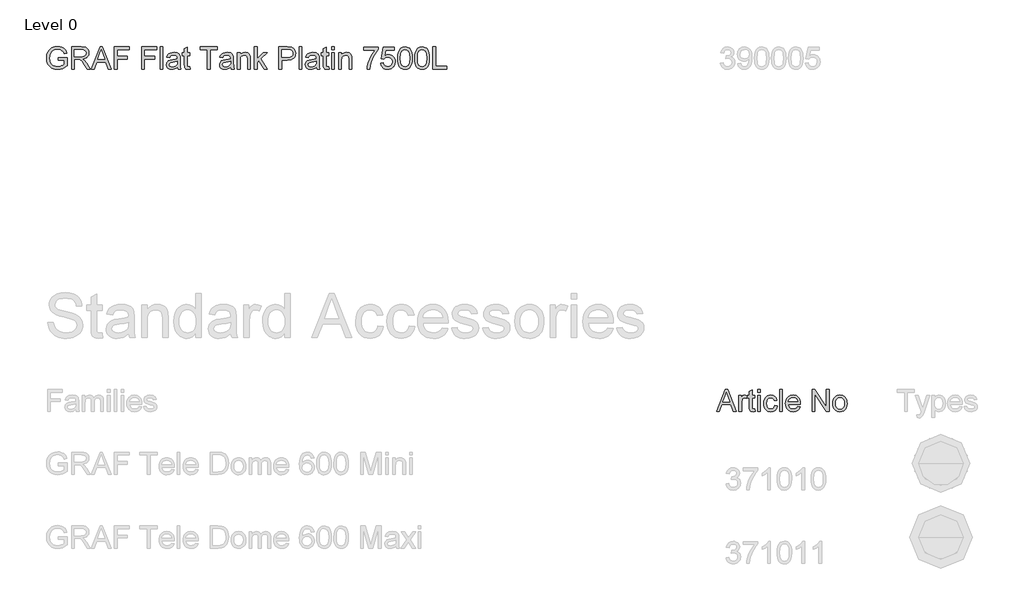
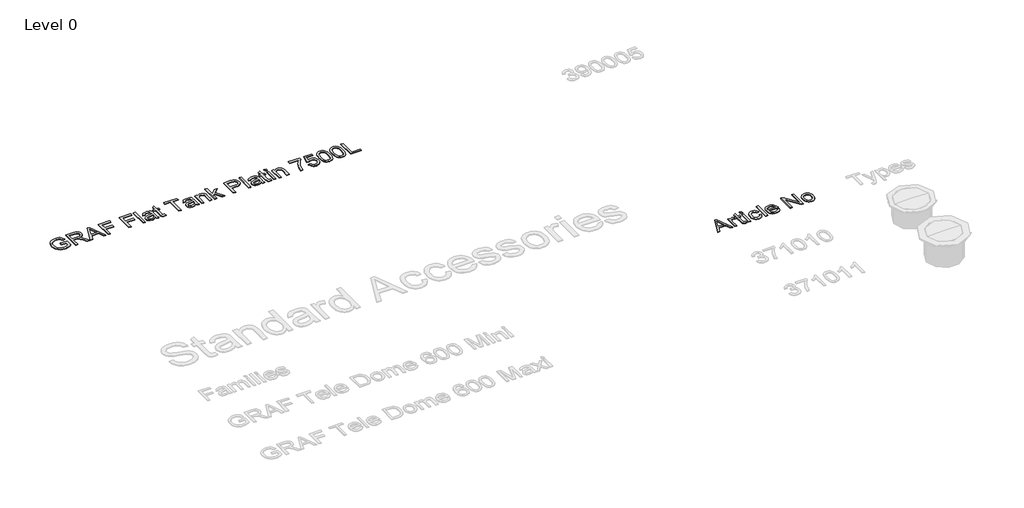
# One storey, part 9 of 14: 2 proxies.
"""IFC4 building model written with IfcOpenShell, lengths in millimetres."""

from ifc_helpers import new_model, si_unit, origin, origin_with_axes, place, context, project, spatial, polyline, outline, extrude, element, save

model = new_model("IFC4")

# Units and contexts
model_context = context("Model", 3, world=origin())
ifc_project = project(units=[si_unit("LENGTHUNIT", "METRE", prefix="MILLI")], contexts=[model_context])

# Site, building, storey
site = spatial("IfcSite", under=ifc_project)
building = spatial("IfcBuilding", under=site)
storey = spatial("IfcBuildingStorey", under=building, Name="Level 0", Elevation=0.0)

# Proxies
placement = place(None, origin())
element("IfcBuildingElementProxy", 1, Name="300mm Arial", ObjectType="300mm Arial", at=placement, inside=storey, context=model_context, shape_type="SweptSolid", body=[
    extrude(outline(polyline([(-15240.9940387, -2583.2545597), (-15240.9940387, -2545.5834434), (-15118.5629107, -2545.5834434), (-15118.5629107, -2658.2289103), (-15148.3153671, -2678.9222726), (-15179.0059225, -2693.7663111), (-15210.5610007, -2702.7058436), (-15242.9070251, -2705.6856877), (-15285.1674693, -2700.949207), (-15323.3628175, -2686.739765), (-15355.0926395, -2663.5540022), (-15377.9565055, -2631.8885595), (-15391.7796715, -2593.9047435), (-15396.3873935, -2551.7638609), (-15391.7980656, -2509.3194757), (-15378.0300819, -2469.8365406), (-15355.6536596, -2436.717964), (-15325.2390156, -2413.3666543), (-15288.1932987, -2399.5158972), (-15245.9236575, -2394.8989782), (-15214.8928112, -2397.5753197), (-15186.9889618, -2405.6043443), (-15163.4904994, -2418.4066377), (-15145.6758138, -2435.4027859), (-15132.4964413, -2457.4113262), (-15122.9039183, -2485.2507962), (-15157.6319786, -2495.0364573), (-15165.3850917, -2475.1800266), (-15174.8120678, -2460.1980323), (-15187.2832674, -2448.9040551), (-15204.169051, -2440.1116754), (-15224.3013932, -2434.4554897), (-15246.5122687, -2432.5700945), (-15272.5123287, -2434.6026425), (-15294.7415982, -2440.7002866), (-15313.1173039, -2450.0996716), (-15327.5566722, -2462.0374423), (-15346.9440533, -2491.0633317), (-15355.7732212, -2519.50061), (-15358.7162772, -2550.2187566), (-15355.175413, -2586.2436009), (-15344.5528204, -2615.8856927), (-15327.1703961, -2638.9334997), (-15303.3500369, -2655.1754898), (-15275.4737787, -2664.804801), (-15245.9236575, -2668.0145714), (-15219.831627, -2665.5957473), (-15194.3833899, -2658.3392749), (-15172.2828791, -2648.3420817), (-15156.234027, -2637.701095), (-15156.234027, -2583.2545597), (-15240.9940387, -2583.2545597)])), origin_with_axes(), (0.0, 0.0, 1.0), 10.0),
    extrude(outline(polyline([(-15057.3473467, -2700.9767982), (-15057.3473467, -2399.6078677), (-14927.4850024, -2399.6078677), (-14892.5821982, -2401.6404158), (-14867.1891434, -2407.7380598), (-14848.6294968, -2418.9952489), (-14834.2269167, -2436.5064318), (-14824.9838815, -2458.2206666), (-14821.9028698, -2482.087011), (-14827.0072325, -2511.7750881), (-14842.3203206, -2536.3863935), (-14853.9200997, -2546.4157764), (-14868.3019865, -2554.4310054), (-14905.4120827, -2564.4190016), (-14884.0013506, -2580.532233), (-14853.467145, -2619.3069952), (-14803.2144645, -2700.9767982), (-14846.9924219, -2700.9767982), (-14886.2086426, -2638.5104354), (-14914.5355562, -2597.1604991), (-14934.4379722, -2577.6259652), (-14952.3538253, -2570.4522663), (-14974.2060158, -2569.1278911), (-15019.6762304, -2569.1278911), (-15019.6762304, -2700.9767982), (-15057.3473467, -2700.9767982)]), holes=[polyline([(-15019.6762304, -2531.4567748), (-14935.3576771, -2531.4567748), (-14911.1418448, -2530.1232026), (-14892.3522719, -2526.1224859), (-14878.2072092, -2519.1879103), (-14867.9249074, -2509.0527613), (-14861.6617165, -2496.7930938), (-14859.5739861, -2483.4849626), (-14863.5563087, -2465.109257), (-14875.5032765, -2450.3020067), (-14896.058683, -2440.5347397), (-14925.8663217, -2437.278984), (-15019.6762304, -2437.278984), (-15019.6762304, -2531.4567748)])]), origin_with_axes(), (0.0, 0.0, 1.0), 10.0),
    extrude(outline(polyline([(-14791.0743586, -2700.9767982), (-14670.7769462, -2399.6078677), (-14638.6976362, -2399.6078677), (-14518.4002238, -2700.9767982), (-14558.2050557, -2700.9767982), (-14592.7123868, -2606.7990074), (-14716.835772, -2606.7990074), (-14751.2695268, -2700.9767982), (-14791.0743586, -2700.9767982)]), holes=[polyline([(-14703.003409, -2569.1278911), (-14606.4711735, -2569.1278911), (-14633.6208647, -2495.0364573), (-14654.7372912, -2437.278984), (-14673.499273, -2488.5617342), (-14703.003409, -2569.1278911)])]), origin_with_axes(), (0.0, 0.0, 1.0), 10.0),
    extrude(outline(polyline([(-14478.1539335, -2700.9767982), (-14478.1539335, -2399.6078677), (-14275.6716834, -2399.6078677), (-14275.6716834, -2437.278984), (-14440.4828172, -2437.278984), (-14440.4828172, -2526.7478853), (-14299.2161311, -2526.7478853), (-14299.2161311, -2564.4190016), (-14440.4828172, -2564.4190016), (-14440.4828172, -2700.9767982), (-14478.1539335, -2700.9767982)])), origin_with_axes(), (0.0, 0.0, 1.0), 10.0),
    extrude(outline(polyline([(-14106.15166, -2700.9767982), (-14106.15166, -2399.6078677), (-13903.6694099, -2399.6078677), (-13903.6694099, -2437.278984), (-14068.4805437, -2437.278984), (-14068.4805437, -2526.7478853), (-13927.2138576, -2526.7478853), (-13927.2138576, -2564.4190016), (-14068.4805437, -2564.4190016), (-14068.4805437, -2700.9767982), (-14106.15166, -2700.9767982)])), origin_with_axes(), (0.0, 0.0, 1.0), 10.0),
    extrude(outline(polyline([(-13856.5805145, -2700.9767982), (-13856.5805145, -2399.6078677), (-13818.9093982, -2399.6078677), (-13818.9093982, -2700.9767982), (-13856.5805145, -2700.9767982)])), origin_with_axes(), (0.0, 0.0, 1.0), 10.0),
    extrude(outline(polyline([(-13621.1360376, -2672.7234609), (-13639.1346642, -2688.1561106), (-13657.6667197, -2698.2544714), (-13677.1552684, -2703.8278836), (-13698.0233746, -2705.6856877), (-13729.5048763, -2701.2159215), (-13752.7274272, -2687.8066228), (-13767.0472339, -2667.4443543), (-13771.8205028, -2642.1156789), (-13770.017881, -2626.4990883), (-13764.6100157, -2612.3172373), (-13756.2682915, -2600.1771315), (-13745.6640929, -2590.685776), (-13719.2869539, -2578.324941), (-13686.6926091, -2572.6595583), (-13648.1753642, -2566.6998699), (-13621.3567668, -2559.710112), (-13621.1360376, -2551.3224025), (-13623.7296056, -2534.5101954), (-13631.5103098, -2523.5105237), (-13648.9111282, -2515.3435434), (-13673.1545517, -2512.6212166), (-13695.5953534, -2514.4330355), (-13711.2671264, -2519.868492), (-13721.9540984, -2529.9208675), (-13729.440497, -2545.5834434), (-13767.1116133, -2540.8745539), (-13760.5725108, -2520.2731621), (-13750.8144409, -2504.0863544), (-13736.9268956, -2491.7071252), (-13717.9993669, -2482.5284694), (-13694.8503924, -2476.8446926), (-13668.2985094, -2474.9501003), (-13642.8318782, -2476.6239634), (-13622.6443538, -2481.6455527), (-13607.4232362, -2489.1963306), (-13596.8558259, -2498.4577598), (-13589.8476739, -2509.9080869), (-13585.3043312, -2524.0255585), (-13583.4649213, -2556.9877853), (-13583.4649213, -2603.8559515), (-13581.5519349, -2669.3021584), (-13574.0471422, -2700.9767982), (-13611.7182585, -2700.9767982), (-13621.1360376, -2672.7234609)]), holes=[polyline([(-13621.1360376, -2597.3812283), (-13681.9101432, -2608.932723), (-13714.320547, -2615.0395641), (-13728.9990386, -2624.972378), (-13734.1493865, -2639.4669286), (-13731.3442863, -2650.6689353), (-13722.9289856, -2659.8475911), (-13709.0874256, -2665.9728263), (-13690.0035471, -2668.0145714), (-13669.7700373, -2665.7612942), (-13651.8909724, -2659.0014625), (-13637.3964218, -2649.0410575), (-13627.3164551, -2637.1860602), (-13622.8466889, -2624.972378), (-13621.3567668, -2608.0498062), (-13621.1360376, -2597.3812283)])]), origin_with_axes(), (0.0, 0.0, 1.0), 10.0),
    extrude(outline(polyline([(-13451.6160142, -2669.5596758), (-13446.9071247, -2702.0804442), (-13475.0868855, -2705.6856877), (-13493.1682856, -2704.1221892), (-13506.6511607, -2699.4316938), (-13516.1793043, -2692.2028126), (-13522.3965101, -2683.0241568), (-13525.8178126, -2667.2604133), (-13526.9582468, -2640.276269), (-13526.9582468, -2517.3301062), (-13555.211584, -2517.3301062), (-13555.211584, -2479.6589899), (-13526.9582468, -2479.6589899), (-13526.9582468, -2425.8746422), (-13489.2871305, -2403.7281461), (-13489.2871305, -2479.6589899), (-13451.6160142, -2479.6589899), (-13451.6160142, -2517.3301062), (-13489.2871305, -2517.3301062), (-13489.2871305, -2639.172623), (-13487.3005677, -2658.5967923), (-13480.8626328, -2665.4761856), (-13468.0235512, -2668.0145714), (-13451.6160142, -2669.5596758)])), origin_with_axes(), (0.0, 0.0, 1.0), 10.0),
    extrude(outline(polyline([(-13216.1715373, -2700.9767982), (-13216.1715373, -2437.278984), (-13315.0582176, -2437.278984), (-13315.0582176, -2399.6078677), (-13079.6137407, -2399.6078677), (-13079.6137407, -2437.278984), (-13178.500421, -2437.278984), (-13178.500421, -2700.9767982), (-13216.1715373, -2700.9767982)])), origin_with_axes(), (0.0, 0.0, 1.0), 10.0),
    extrude(outline(polyline([(-12900.6759382, -2672.7234609), (-12918.6745648, -2688.1561106), (-12937.2066203, -2698.2544714), (-12956.695169, -2703.8278836), (-12977.5632752, -2705.6856877), (-13009.0447769, -2701.2159215), (-13032.2673279, -2687.8066228), (-13046.5871346, -2667.4443543), (-13051.3604034, -2642.1156789), (-13049.5577817, -2626.4990883), (-13044.1499163, -2612.3172373), (-13035.8081921, -2600.1771315), (-13025.2039936, -2590.685776), (-12998.8268545, -2578.324941), (-12966.2325098, -2572.6595583), (-12927.7152649, -2566.6998699), (-12900.8966674, -2559.710112), (-12900.6759382, -2551.3224025), (-12903.2695063, -2534.5101954), (-12911.0502105, -2523.5105237), (-12928.4510289, -2515.3435434), (-12952.6944523, -2512.6212166), (-12975.135254, -2514.4330355), (-12990.807027, -2519.868492), (-13001.493999, -2529.9208675), (-13008.9803976, -2545.5834434), (-13046.6515139, -2540.8745539), (-13040.1124114, -2520.2731621), (-13030.3543415, -2504.0863544), (-13016.4667962, -2491.7071252), (-12997.5392675, -2482.5284694), (-12974.390293, -2476.8446926), (-12947.83841, -2474.9501003), (-12922.3717789, -2476.6239634), (-12902.1842544, -2481.6455527), (-12886.9631368, -2489.1963306), (-12876.3957265, -2498.4577598), (-12869.3875745, -2509.9080869), (-12864.8442319, -2524.0255585), (-12863.0048219, -2556.9877853), (-12863.0048219, -2603.8559515), (-12861.0918355, -2669.3021584), (-12853.5870428, -2700.9767982), (-12891.2581591, -2700.9767982), (-12900.6759382, -2672.7234609)]), holes=[polyline([(-12900.6759382, -2597.3812283), (-12961.4500438, -2608.932723), (-12993.8604476, -2615.0395641), (-13008.5389392, -2624.972378), (-13013.6892871, -2639.4669286), (-13010.8841869, -2650.6689353), (-13002.4688863, -2659.8475911), (-12988.6273262, -2665.9728263), (-12969.5434477, -2668.0145714), (-12949.309938, -2665.7612942), (-12931.430873, -2659.0014625), (-12916.9363224, -2649.0410575), (-12906.8563557, -2637.1860602), (-12902.3865895, -2624.972378), (-12900.8966674, -2608.0498062), (-12900.6759382, -2597.3812283)])]), origin_with_axes(), (0.0, 0.0, 1.0), 10.0),
    extrude(outline(polyline([(-12811.207037, -2700.9767982), (-12811.207037, -2479.6589899), (-12773.5359207, -2479.6589899), (-12773.5359207, -2510.5610775), (-12760.4485187, -2494.981275), (-12744.7307605, -2483.8528446), (-12726.382646, -2477.1757864), (-12705.4041752, -2474.9501003), (-12686.8353315, -2476.7435251), (-12669.8299862, -2482.1237992), (-12655.6481353, -2490.4195382), (-12645.5497746, -2500.9593574), (-12634.2557973, -2528.6608716), (-12632.2692345, -2565.0811892), (-12632.2692345, -2700.9767982), (-12669.9403508, -2700.9767982), (-12669.9403508, -2570.1579607), (-12674.2813584, -2536.8278519), (-12680.287032, -2526.9042351), (-12689.6220376, -2519.2063044), (-12701.5873995, -2514.2674886), (-12715.4841418, -2512.6212166), (-12737.5478645, -2516.3184307), (-12756.3558315, -2527.4100729), (-12763.8721205, -2536.4645685), (-12769.2408984, -2548.8391991), (-12773.5359207, -2583.5488653), (-12773.5359207, -2700.9767982), (-12811.207037, -2700.9767982)])), origin_with_axes(), (0.0, 0.0, 1.0), 10.0),
    extrude(outline(polyline([(-12580.4714496, -2700.9767982), (-12580.4714496, -2399.6078677), (-12542.8003333, -2399.6078677), (-12542.8003333, -2561.549522), (-12458.3346272, -2479.6589899), (-12406.2425367, -2479.6589899), (-12491.7383124, -2562.5795916), (-12401.5336472, -2700.9767982), (-12445.5323338, -2700.9767982), (-12518.7408508, -2588.7727896), (-12542.8003333, -2612.0965081), (-12542.8003333, -2700.9767982), (-12580.4714496, -2700.9767982)])), origin_with_axes(), (0.0, 0.0, 1.0), 10.0),
    extrude(outline(polyline([(-12246.1402924, -2700.9767982), (-12246.1402924, -2399.6078677), (-12134.4513187, -2399.6078677), (-12089.4225625, -2402.4773473), (-12069.3454026, -2407.8392274), (-12052.8183039, -2416.5672277), (-12039.5101728, -2429.0568214), (-12029.0899152, -2445.7034817), (-12022.3576747, -2465.3391832), (-12020.1135946, -2486.7959006), (-12021.6288085, -2505.2957664), (-12026.1744504, -2522.3149072), (-12033.7505203, -2537.853323), (-12044.357018, -2551.9110137), (-12058.9182473, -2563.5636759), (-12078.3585115, -2571.8870061), (-12102.6778106, -2576.8810042), (-12131.8761447, -2578.5456702), (-12208.4691761, -2578.5456702), (-12208.4691761, -2700.9767982), (-12246.1402924, -2700.9767982)]), holes=[polyline([(-12208.4691761, -2540.8745539), (-12129.6688527, -2540.8745539), (-12096.2651676, -2537.4164631), (-12074.1922479, -2527.0421909), (-12061.8865951, -2510.3955306), (-12057.7847109, -2488.1202758), (-12060.203535, -2471.197704), (-12067.4600073, -2456.9238826), (-12078.652817, -2446.1817283), (-12092.8806532, -2439.854158), (-12130.5517695, -2437.278984), (-12208.4691761, -2437.278984), (-12208.4691761, -2540.8745539)])]), origin_with_axes(), (0.0, 0.0, 1.0), 10.0),
    extrude(outline(polyline([(-11973.0246992, -2700.9767982), (-11973.0246992, -2399.6078677), (-11935.3535829, -2399.6078677), (-11935.3535829, -2700.9767982), (-11973.0246992, -2700.9767982)])), origin_with_axes(), (0.0, 0.0, 1.0), 10.0),
    extrude(outline(polyline([(-11737.5802223, -2672.7234609), (-11755.5788489, -2688.1561106), (-11774.1109044, -2698.2544714), (-11793.5994531, -2703.8278836), (-11814.4675593, -2705.6856877), (-11845.949061, -2701.2159215), (-11869.1716119, -2687.8066228), (-11883.4914186, -2667.4443543), (-11888.2646875, -2642.1156789), (-11886.4620657, -2626.4990883), (-11881.0542004, -2612.3172373), (-11872.7124761, -2600.1771315), (-11862.1082776, -2590.685776), (-11835.7311386, -2578.324941), (-11803.1367938, -2572.6595583), (-11764.6195489, -2566.6998699), (-11737.8009515, -2559.710112), (-11737.5802223, -2551.3224025), (-11740.1737903, -2534.5101954), (-11747.9544945, -2523.5105237), (-11765.3553129, -2515.3435434), (-11789.5987364, -2512.6212166), (-11812.0395381, -2514.4330355), (-11827.7113111, -2519.868492), (-11838.398283, -2529.9208675), (-11845.8846816, -2545.5834434), (-11883.555798, -2540.8745539), (-11877.0166955, -2520.2731621), (-11867.2586256, -2504.0863544), (-11853.3710803, -2491.7071252), (-11834.4435516, -2482.5284694), (-11811.2945771, -2476.8446926), (-11784.742694, -2474.9501003), (-11759.2760629, -2476.6239634), (-11739.0885384, -2481.6455527), (-11723.8674209, -2489.1963306), (-11713.3000106, -2498.4577598), (-11706.2918586, -2509.9080869), (-11701.7485159, -2524.0255585), (-11699.909106, -2556.9877853), (-11699.909106, -2603.8559515), (-11697.9961196, -2669.3021584), (-11690.4913269, -2700.9767982), (-11728.1624432, -2700.9767982), (-11737.5802223, -2672.7234609)]), holes=[polyline([(-11737.5802223, -2597.3812283), (-11798.3543279, -2608.932723), (-11830.7647316, -2615.0395641), (-11845.4432233, -2624.972378), (-11850.5935712, -2639.4669286), (-11847.788471, -2650.6689353), (-11839.3731703, -2659.8475911), (-11825.5316103, -2665.9728263), (-11806.4477318, -2668.0145714), (-11786.214222, -2665.7612942), (-11768.3351571, -2659.0014625), (-11753.8406065, -2649.0410575), (-11743.7606398, -2637.1860602), (-11739.2908735, -2624.972378), (-11737.8009515, -2608.0498062), (-11737.5802223, -2597.3812283)])]), origin_with_axes(), (0.0, 0.0, 1.0), 10.0),
    extrude(outline(polyline([(-11568.0601989, -2669.5596758), (-11563.3513094, -2702.0804442), (-11591.5310702, -2705.6856877), (-11609.6124702, -2704.1221892), (-11623.0953454, -2699.4316938), (-11632.623489, -2692.2028126), (-11638.8406948, -2683.0241568), (-11642.2619973, -2667.2604133), (-11643.4024315, -2640.276269), (-11643.4024315, -2517.3301062), (-11671.6557687, -2517.3301062), (-11671.6557687, -2479.6589899), (-11643.4024315, -2479.6589899), (-11643.4024315, -2425.8746422), (-11605.7313152, -2403.7281461), (-11605.7313152, -2479.6589899), (-11568.0601989, -2479.6589899), (-11568.0601989, -2517.3301062), (-11605.7313152, -2517.3301062), (-11605.7313152, -2639.172623), (-11603.7447524, -2658.5967923), (-11597.3068175, -2665.4761856), (-11584.4677359, -2668.0145714), (-11568.0601989, -2669.5596758)])), origin_with_axes(), (0.0, 0.0, 1.0), 10.0),
    extrude(outline(polyline([(-11530.3890826, -2437.278984), (-11530.3890826, -2399.6078677), (-11492.7179663, -2399.6078677), (-11492.7179663, -2437.278984), (-11530.3890826, -2437.278984)])), origin_with_axes(), (0.0, 0.0, 1.0), 10.0),
    extrude(outline(polyline([(-11530.3890826, -2700.9767982), (-11530.3890826, -2479.6589899), (-11492.7179663, -2479.6589899), (-11492.7179663, -2700.9767982), (-11530.3890826, -2700.9767982)])), origin_with_axes(), (0.0, 0.0, 1.0), 10.0),
    extrude(outline(polyline([(-11436.2112918, -2700.9767982), (-11436.2112918, -2479.6589899), (-11398.5401755, -2479.6589899), (-11398.5401755, -2510.5610775), (-11385.4527735, -2494.981275), (-11369.7350153, -2483.8528446), (-11351.3869008, -2477.1757864), (-11330.40843, -2474.9501003), (-11311.8395863, -2476.7435251), (-11294.8342411, -2482.1237992), (-11280.6523902, -2490.4195382), (-11270.5540294, -2500.9593574), (-11259.2600521, -2528.6608716), (-11257.2734894, -2565.0811892), (-11257.2734894, -2700.9767982), (-11294.9446057, -2700.9767982), (-11294.9446057, -2570.1579607), (-11299.2856132, -2536.8278519), (-11305.2912868, -2526.9042351), (-11314.6262924, -2519.2063044), (-11326.5916543, -2514.2674886), (-11340.4883967, -2512.6212166), (-11362.5521193, -2516.3184307), (-11381.3600863, -2527.4100729), (-11388.8763754, -2536.4645685), (-11394.2451532, -2548.8391991), (-11398.5401755, -2583.5488653), (-11398.5401755, -2700.9767982), (-11436.2112918, -2700.9767982)])), origin_with_axes(), (0.0, 0.0, 1.0), 10.0),
    extrude(outline(polyline([(-11097.1712451, -2441.9878736), (-11097.1712451, -2404.3167573), (-10899.3978845, -2404.3167573), (-10899.3978845, -2434.7773865), (-10927.5868423, -2470.452743), (-10955.4998887, -2515.82179), (-10980.1203912, -2566.7458552), (-10998.4317176, -2619.0862661), (-11007.4080382, -2658.2473044), (-11012.4112334, -2700.9767982), (-11050.0823497, -2700.9767982), (-11046.0080566, -2662.1468536), (-11035.1095525, -2615.9960573), (-11017.681143, -2567.076949), (-10994.0171336, -2519.9420684), (-10966.3891958, -2477.3321363), (-10937.0690008, -2441.9878736), (-11097.1712451, -2441.9878736)])), origin_with_axes(), (0.0, 0.0, 1.0), 10.0),
    extrude(outline(polyline([(-10866.4356577, -2620.925676), (-10828.7645414, -2616.2167865), (-10821.8483599, -2638.8323321), (-10809.7818304, -2655.028337), (-10792.6201354, -2664.7680128), (-10770.4184569, -2668.0145714), (-10743.4159185, -2663.4988199), (-10723.1824088, -2649.9515654), (-10710.5456622, -2628.9363065), (-10706.3334134, -2602.0165415), (-10710.2789478, -2576.669472), (-10722.115551, -2557.2820909), (-10741.9351935, -2544.9764381), (-10769.8298458, -2540.8745539), (-10788.1043839, -2542.5116288), (-10802.9024371, -2547.4228534), (-10824.0556518, -2564.4190016), (-10861.7267682, -2559.710112), (-10828.7645414, -2404.3167573), (-10682.7889657, -2404.3167573), (-10682.7889657, -2441.9878736), (-10798.3039122, -2441.9878736), (-10814.4171436, -2524.9820517), (-10787.5065756, -2508.6480911), (-10759.3084207, -2503.2034376), (-10740.9626054, -2504.8910962), (-10724.1113108, -2509.9540722), (-10708.7545368, -2518.3923654), (-10694.8922833, -2530.205976), (-10683.4166644, -2544.6729355), (-10675.2197936, -2561.0712754), (-10670.3016712, -2579.4009958), (-10668.6622971, -2599.6620967), (-10674.5668031, -2637.333213), (-10681.9474356, -2654.1270261), (-10692.2803212, -2669.5596758), (-10707.9337001, -2685.364806), (-10726.1990411, -2696.6541847), (-10747.0763444, -2703.427812), (-10770.5656097, -2705.6856877), (-10807.5653414, -2699.8823492), (-10823.2440122, -2692.6281762), (-10837.0418863, -2682.4723338), (-10848.5221038, -2669.92066), (-10857.2478049, -2655.4789924), (-10866.4356577, -2620.925676)])), origin_with_axes(), (0.0, 0.0, 1.0), 10.0),
    extrude(outline(polyline([(-10635.7000703, -2552.7203541), (-10632.9317583, -2504.4818275), (-10624.6268223, -2466.0105679), (-10610.8680356, -2436.717964), (-10591.7381719, -2416.0154047), (-10567.0992753, -2403.709752), (-10536.81339, -2399.6078677), (-10513.6000361, -2402.0358889), (-10492.8147034, -2409.3199524), (-10475.4322791, -2421.1749497), (-10462.4276506, -2437.3157722), (-10452.6052013, -2457.6044643), (-10444.7693148, -2481.9030701), (-10439.637361, -2512.7591724), (-10437.9267097, -2552.7203541), (-10440.6674306, -2600.6829692), (-10448.8895932, -2639.0622584), (-10462.5656063, -2668.3824534), (-10481.6678789, -2689.1677861), (-10506.3619579, -2701.5562123), (-10536.81339, -2705.6856877), (-10557.5619345, -2703.892263), (-10575.9560343, -2698.5119888), (-10591.9956893, -2689.5448652), (-10605.6808995, -2676.9908921), (-10618.8142867, -2654.2971715), (-10628.1952776, -2626.0208417), (-10633.8238721, -2592.1619025), (-10635.7000703, -2552.7203541)]), holes=[polyline([(-10598.028954, -2552.6467777), (-10593.6143701, -2611.9033701), (-10588.0961401, -2632.1713688), (-10580.3706182, -2646.1991691), (-10560.6521433, -2662.5607208), (-10536.81339, -2668.0145714), (-10512.9746367, -2662.5423267), (-10493.2561618, -2646.1255927), (-10485.5306399, -2632.0747997), (-10480.01241, -2611.8113996), (-10475.597826, -2552.6467777), (-10479.8652572, -2494.7237576), (-10485.1995461, -2474.5224375), (-10492.6675506, -2460.1612441), (-10512.3492373, -2442.9995491), (-10537.2548484, -2437.278984), (-10560.8360843, -2442.3189674), (-10579.782007, -2457.4389174), (-10587.7650463, -2473.0739022), (-10593.4672173, -2494.1535405), (-10598.028954, -2552.6467777)])]), origin_with_axes(), (0.0, 0.0, 1.0), 10.0),
    extrude(outline(polyline([(-10404.9644829, -2552.7203541), (-10402.1961709, -2504.4818275), (-10393.8912349, -2466.0105679), (-10380.1324483, -2436.717964), (-10361.0025845, -2416.0154047), (-10336.3636879, -2403.709752), (-10306.0778026, -2399.6078677), (-10282.8644487, -2402.0358889), (-10262.079116, -2409.3199524), (-10244.6966917, -2421.1749497), (-10231.6920632, -2437.3157722), (-10221.8696139, -2457.6044643), (-10214.0337274, -2481.9030701), (-10208.9017736, -2512.7591724), (-10207.1911223, -2552.7203541), (-10209.9318432, -2600.6829692), (-10218.1540058, -2639.0622584), (-10231.830019, -2668.3824534), (-10250.9322916, -2689.1677861), (-10275.6263705, -2701.5562123), (-10306.0778026, -2705.6856877), (-10326.8263472, -2703.892263), (-10345.2204469, -2698.5119888), (-10361.2601019, -2689.5448652), (-10374.9453121, -2676.9908921), (-10388.0786994, -2654.2971715), (-10397.4596902, -2626.0208417), (-10403.0882848, -2592.1619025), (-10404.9644829, -2552.7203541)]), holes=[polyline([(-10367.2933666, -2552.6467777), (-10362.8787827, -2611.9033701), (-10357.3605528, -2632.1713688), (-10349.6350309, -2646.1991691), (-10329.9165559, -2662.5607208), (-10306.0778026, -2668.0145714), (-10282.2390493, -2662.5423267), (-10262.5205744, -2646.1255927), (-10254.7950525, -2632.0747997), (-10249.2768226, -2611.8113996), (-10244.8622386, -2552.6467777), (-10249.1296698, -2494.7237576), (-10254.4639587, -2474.5224375), (-10261.9319632, -2460.1612441), (-10281.61365, -2442.9995491), (-10306.519261, -2437.278984), (-10330.1004969, -2442.3189674), (-10349.0464197, -2457.4389174), (-10357.029459, -2473.0739022), (-10362.7316299, -2494.1535405), (-10367.2933666, -2552.6467777)])]), origin_with_axes(), (0.0, 0.0, 1.0), 10.0),
    extrude(outline(polyline([(-10160.102227, -2700.9767982), (-10160.102227, -2399.6078677), (-10122.4311106, -2399.6078677), (-10122.4311106, -2663.3056819), (-9971.7466454, -2663.3056819), (-9971.7466454, -2700.9767982), (-10160.102227, -2700.9767982)])), origin_with_axes(), (0.0, 0.0, 1.0), 10.0),
])
element("IfcBuildingElementProxy", 2, Name="300mm Arial", ObjectType="300mm Arial", at=placement, inside=storey, context=model_context, shape_type="SweptSolid", body=[
    extrude(outline(polyline([(-6312.9807775, -7345.798374), (-6195.0721236, -7050.4137586), (-6163.6298159, -7050.4137586), (-6045.7211621, -7345.798374), (-6084.7355852, -7345.798374), (-6118.5577005, -7253.4906817), (-6240.2163544, -7253.4906817), (-6273.9663544, -7345.798374), (-6312.9807775, -7345.798374)]), holes=[polyline([(-6226.6586621, -7216.5676048), (-6132.0432775, -7216.5676048), (-6158.6538544, -7143.9474125), (-6179.3509698, -7087.3368356), (-6197.7403928, -7137.6012586), (-6226.6586621, -7216.5676048)])]), origin_with_axes(), (0.0, 0.0, 1.0), 10.0),
    extrude(outline(polyline([(-6010.8894313, -7345.798374), (-6010.8894313, -7128.8752971), (-5978.581739, -7128.8752971), (-5978.581739, -7160.9666433), (-5966.6466428, -7142.360874), (-5955.6490467, -7131.3993356), (-5944.6153928, -7126.0447683), (-5932.5721236, -7124.2599125), (-5914.1827005, -7127.1084702), (-5895.5048159, -7135.6541433), (-5907.8365467, -7168.7551048), (-5920.8173159, -7163.0760183), (-5933.7980852, -7161.1829894), (-5944.8227246, -7163.0039029), (-5954.675489, -7168.4666433), (-5962.6352246, -7177.1565471), (-5967.9807775, -7188.6589509), (-5972.4699602, -7209.2839509), (-5973.9663544, -7231.7839509), (-5973.9663544, -7345.798374), (-6010.8894313, -7345.798374)])), origin_with_axes(), (0.0, 0.0, 1.0), 10.0),
    extrude(outline(polyline([(-5793.9663544, -7315.0051048), (-5789.3509698, -7346.8801048), (-5816.9711621, -7350.4137586), (-5834.6935178, -7348.8813067), (-5847.9086621, -7344.2839509), (-5857.2476044, -7337.1986144), (-5863.3413544, -7328.2022202), (-5866.6947198, -7312.751499), (-5867.8125082, -7286.3031817), (-5867.8125082, -7165.798374), (-5895.5048159, -7165.798374), (-5895.5048159, -7128.8752971), (-5867.8125082, -7128.8752971), (-5867.8125082, -7076.1589509), (-5830.8894313, -7054.4522202), (-5830.8894313, -7128.8752971), (-5793.9663544, -7128.8752971), (-5793.9663544, -7165.798374), (-5830.8894313, -7165.798374), (-5830.8894313, -7285.2214509), (-5828.9423159, -7304.2599125), (-5822.6322198, -7311.0027009), (-5810.0480852, -7313.4906817), (-5793.9663544, -7315.0051048)])), origin_with_axes(), (0.0, 0.0, 1.0), 10.0),
    extrude(outline(polyline([(-5757.0432775, -7087.3368356), (-5757.0432775, -7050.4137586), (-5720.1202005, -7050.4137586), (-5720.1202005, -7087.3368356), (-5757.0432775, -7087.3368356)])), origin_with_axes(), (0.0, 0.0, 1.0), 10.0),
    extrude(outline(polyline([(-5757.0432775, -7345.798374), (-5757.0432775, -7128.8752971), (-5720.1202005, -7128.8752971), (-5720.1202005, -7345.798374), (-5757.0432775, -7345.798374)])), origin_with_axes(), (0.0, 0.0, 1.0), 10.0),
    extrude(outline(polyline([(-5526.2740467, -7267.3368356), (-5489.3509698, -7271.9522202), (-5499.6454409, -7304.7917634), (-5518.9903928, -7329.6084702), (-5545.5649121, -7345.2124365), (-5577.5480852, -7350.4137586), (-5598.2564686, -7348.599606), (-5616.8239265, -7343.1571481), (-5633.250459, -7334.0863848), (-5647.5360659, -7321.3873163), (-5659.0993171, -7305.2988247), (-5667.3587823, -7286.0597923), (-5672.3144614, -7263.670219), (-5673.9663544, -7238.1301048), (-5671.14484, -7205.2725327), (-5662.6802967, -7176.7959702), (-5648.4375082, -7153.8001769), (-5628.2812582, -7137.3849125), (-5604.1676765, -7127.5411625), (-5578.0528928, -7124.2599125), (-5546.8539746, -7128.767124), (-5521.9110659, -7142.2887586), (-5504.0174361, -7164.1036625), (-5493.9663544, -7193.4906817), (-5530.8894313, -7198.1060663), (-5537.5871477, -7181.9972923), (-5548.0168352, -7170.4498163), (-5561.6015707, -7163.4996961), (-5577.7644313, -7161.1829894), (-5601.6256092, -7165.7442875), (-5620.5649121, -7179.4281817), (-5632.9236861, -7202.9738548), (-5637.0432775, -7237.1204894), (-5633.0138303, -7271.7268596), (-5620.925489, -7295.3536625), (-5602.3287342, -7308.9564269), (-5578.7740467, -7313.4906817), (-5559.6544553, -7310.6601529), (-5543.9783736, -7302.1685663), (-5532.5751284, -7287.7995759), (-5526.2740467, -7267.3368356)])), origin_with_axes(), (0.0, 0.0, 1.0), 10.0),
    extrude(outline(polyline([(-5457.0432775, -7345.798374), (-5457.0432775, -7050.4137586), (-5420.1202005, -7050.4137586), (-5420.1202005, -7345.798374), (-5457.0432775, -7345.798374)])), origin_with_axes(), (0.0, 0.0, 1.0), 10.0),
    extrude(outline(polyline([(-5212.8605852, -7281.1829894), (-5176.6586621, -7285.798374), (-5189.7025323, -7313.0760183), (-5210.5168352, -7333.4666433), (-5238.6328207, -7346.1769798), (-5273.581739, -7350.4137586), (-5296.4918953, -7348.5860844), (-5316.9050563, -7343.1030615), (-5334.8212222, -7333.9646901), (-5350.2403928, -7321.1709702), (-5362.6397318, -7305.0779714), (-5371.4964025, -7286.0417634), (-5376.8104049, -7264.0623464), (-5378.581739, -7239.1397202), (-5376.792376, -7213.3719918), (-5371.4242871, -7190.6601529), (-5362.4774722, -7171.0042034), (-5349.9519313, -7154.4041433), (-5334.5733255, -7141.2160423), (-5317.0673159, -7131.7959702), (-5297.4339025, -7126.1439269), (-5275.6730852, -7124.2599125), (-5254.6131392, -7126.1394197), (-5235.5679169, -7131.7779413), (-5218.5374181, -7141.1754774), (-5203.5216428, -7154.3320279), (-5191.2642811, -7170.8960303), (-5182.5090227, -7190.5159221), (-5177.2558676, -7213.1917034), (-5175.5048159, -7238.923374), (-5175.7211621, -7248.8752971), (-5341.6586621, -7248.8752971), (-5335.2674361, -7276.5135183), (-5320.4206813, -7296.8320279), (-5298.9933977, -7309.3260183), (-5272.8605852, -7313.4906817), (-5253.2091428, -7311.5615952), (-5236.6586621, -7305.7743356), (-5223.2091428, -7295.7683259), (-5212.8605852, -7281.1829894)]), holes=[polyline([(-5341.6586621, -7211.9522202), (-5212.4278928, -7211.9522202), (-5217.4218832, -7192.4450086), (-5227.2115467, -7178.4906817), (-5248.737989, -7165.5099125), (-5275.8173159, -7161.1829894), (-5300.706138, -7164.6355134), (-5321.2860659, -7174.9930856), (-5335.5919553, -7191.1379173), (-5341.6586621, -7211.9522202)])]), origin_with_axes(), (0.0, 0.0, 1.0), 10.0),
    extrude(outline(polyline([(-5018.581739, -7345.798374), (-5018.581739, -7050.4137586), (-4979.0625082, -7050.4137586), (-4824.7355852, -7284.4281817), (-4824.7355852, -7050.4137586), (-4787.8125082, -7050.4137586), (-4787.8125082, -7345.798374), (-4827.331739, -7345.798374), (-4981.6586621, -7111.7118356), (-4981.6586621, -7345.798374), (-5018.581739, -7345.798374)])), origin_with_axes(), (0.0, 0.0, 1.0), 10.0),
    extrude(outline(polyline([(-4737.0432775, -7237.3368356), (-4735.0465828, -7209.243386), (-4729.0564986, -7185.0351529), (-4719.0730251, -7164.712136), (-4705.0961621, -7148.2743356), (-4691.0246477, -7137.7680255), (-4675.4927967, -7130.2635183), (-4658.5006092, -7125.7608139), (-4640.0480852, -7124.2599125), (-4619.6777426, -7126.0875868), (-4601.2590227, -7131.5706096), (-4584.7919253, -7140.708981), (-4570.2764505, -7153.5027009), (-4558.429245, -7169.5190771), (-4549.9669553, -7188.3254173), (-4544.8895815, -7209.9217214), (-4543.1971236, -7234.3079894), (-4546.1899121, -7271.6096721), (-4555.1682775, -7300.0051048), (-4569.8708015, -7321.2701288), (-4590.0360659, -7337.1805856), (-4613.987388, -7347.1054654), (-4640.0480852, -7350.4137586), (-4660.7159037, -7348.5928452), (-4679.3058977, -7343.1301048), (-4695.8180671, -7334.0255375), (-4710.2524121, -7321.2791433), (-4721.9734157, -7305.1072683), (-4730.3455611, -7285.7262586), (-4735.3688484, -7263.1361144), (-4737.0432775, -7237.3368356)]), holes=[polyline([(-4700.1202005, -7237.2647202), (-4695.847364, -7270.6811865), (-4683.0288544, -7294.4882779), (-4663.737989, -7308.7400808), (-4640.0480852, -7313.4906817), (-4616.4663544, -7308.7130375), (-4597.2115467, -7294.3801048), (-4584.3930371, -7270.2575086), (-4580.1202005, -7236.110874), (-4584.4200803, -7203.6679654), (-4597.3197198, -7180.1853933), (-4616.6015707, -7165.9335904), (-4640.0480852, -7161.1829894), (-4663.737989, -7165.9155615), (-4683.0288544, -7180.1132779), (-4695.847364, -7203.8662827), (-4700.1202005, -7237.2647202)])]), origin_with_axes(), (0.0, 0.0, 1.0), 10.0),
])

save(model, "model.ifc")
